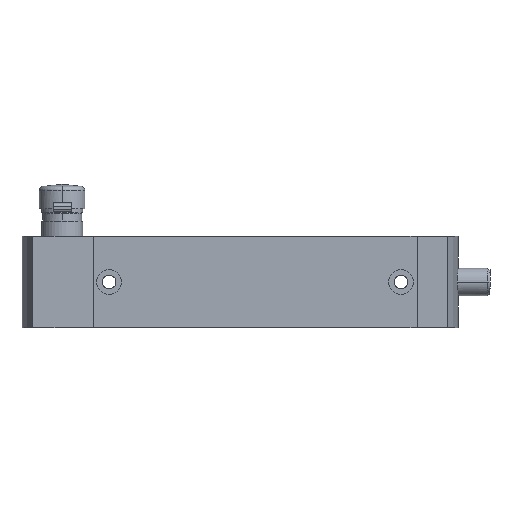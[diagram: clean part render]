
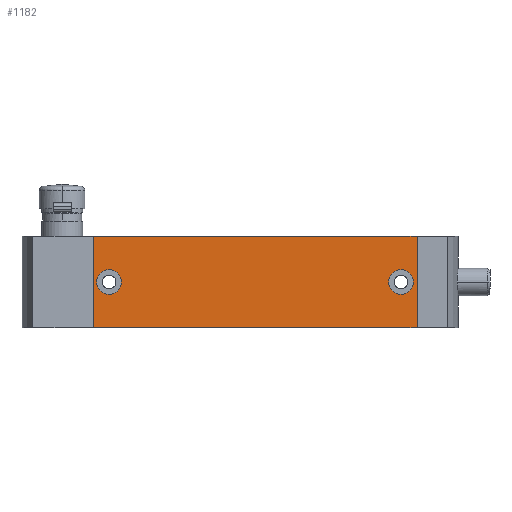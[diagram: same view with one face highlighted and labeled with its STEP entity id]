
A CAD part, left-side view. The second image highlights one B-rep face of the part: STEP entity #1182.
In plain terms, the highlighted planar face has unit normal (-1, 0, 0) as drawn and (0, 0, -1) by its records, which use the part's own axes.
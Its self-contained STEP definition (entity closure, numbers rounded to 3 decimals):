
#74 = DIRECTION ( 'NONE',  ( 1., 0., 0. ) ) ;
#384 = DIRECTION ( 'NONE',  ( 0., -1., 0. ) ) ;
#391 = DIRECTION ( 'NONE',  ( -1., 0., 0. ) ) ;
#453 = DIRECTION ( 'NONE',  ( 0., 0., 1. ) ) ;
#631 = EDGE_CURVE ( 'NONE', #7013, #7561, #3868, .T. ) ;
#712 = CIRCLE ( 'NONE', #3083, 5.4 ) ;
#755 = EDGE_CURVE ( 'NONE', #7513, #4048, #7096, .T. ) ;
#756 = CARTESIAN_POINT ( 'NONE',  ( -58.6, 0., -20. ) ) ;
#785 = VERTEX_POINT ( 'NONE', #7874 ) ;
#902 = ORIENTED_EDGE ( 'NONE', *, *, #5442, .T. ) ;
#951 = ORIENTED_EDGE ( 'NONE', *, *, #4007, .T. ) ;
#1136 = EDGE_CURVE ( 'NONE', #785, #5562, #3625, .T. ) ;
#1182 = ADVANCED_FACE ( 'NONE', ( #8600, #6625, #4888 ), #4146, .F. ) ;
#1194 = EDGE_CURVE ( 'NONE', #7561, #7013, #712, .T. ) ;
#1276 = CARTESIAN_POINT ( 'NONE',  ( -71., 20., -20. ) ) ;
#1866 = CARTESIAN_POINT ( 'NONE',  ( 71., 20., -20. ) ) ;
#1967 = DIRECTION ( 'NONE',  ( -1., 0., 0. ) ) ;
#2345 = EDGE_CURVE ( 'NONE', #5562, #4048, #9440, .T. ) ;
#2415 = CARTESIAN_POINT ( 'NONE',  ( -71., -20., -20. ) ) ;
#2650 = VECTOR ( 'NONE', #1967, 1000. ) ;
#2884 = LINE ( 'NONE', #3447, #2650 ) ;
#2923 = VECTOR ( 'NONE', #3389, 1000. ) ;
#3058 = EDGE_LOOP ( 'NONE', ( #4463, #3667, #8625, #9438 ) ) ;
#3083 = AXIS2_PLACEMENT_3D ( 'NONE', #4176, #9366, #4925 ) ;
#3159 = VECTOR ( 'NONE', #384, 1000. ) ;
#3221 = VERTEX_POINT ( 'NONE', #7505 ) ;
#3389 = DIRECTION ( 'NONE',  ( 0., -1., 0. ) ) ;
#3392 = CARTESIAN_POINT ( 'NONE',  ( 64., 0., -20. ) ) ;
#3447 = CARTESIAN_POINT ( 'NONE',  ( -71., 20., -20. ) ) ;
#3455 = AXIS2_PLACEMENT_3D ( 'NONE', #9273, #4826, #391 ) ;
#3589 = AXIS2_PLACEMENT_3D ( 'NONE', #4891, #453, #5645 ) ;
#3625 = LINE ( 'NONE', #1866, #3159 ) ;
#3667 = ORIENTED_EDGE ( 'NONE', *, *, #755, .F. ) ;
#3756 = VERTEX_POINT ( 'NONE', #8079 ) ;
#3868 = CIRCLE ( 'NONE', #3455, 5.4 ) ;
#3898 = ORIENTED_EDGE ( 'NONE', *, *, #1194, .F. ) ;
#3958 = EDGE_LOOP ( 'NONE', ( #3898, #6583 ) ) ;
#4007 = EDGE_CURVE ( 'NONE', #3221, #3756, #9412, .T. ) ;
#4048 = VERTEX_POINT ( 'NONE', #4910 ) ;
#4136 = DIRECTION ( 'NONE',  ( 1., 0., 0. ) ) ;
#4146 = PLANE ( 'NONE',  #3589 ) ;
#4176 = CARTESIAN_POINT ( 'NONE',  ( -64., 0., -20. ) ) ;
#4463 = ORIENTED_EDGE ( 'NONE', *, *, #2345, .T. ) ;
#4503 = DIRECTION ( 'NONE',  ( 0., 0., 1. ) ) ;
#4599 = EDGE_LOOP ( 'NONE', ( #902, #951 ) ) ;
#4826 = DIRECTION ( 'NONE',  ( 0., 0., -1. ) ) ;
#4838 = CARTESIAN_POINT ( 'NONE',  ( -71., 20., -20. ) ) ;
#4888 = FACE_BOUND ( 'NONE', #4599, .T. ) ;
#4891 = CARTESIAN_POINT ( 'NONE',  ( -71., 20., -20. ) ) ;
#4910 = CARTESIAN_POINT ( 'NONE',  ( -71., -20., -20. ) ) ;
#4925 = DIRECTION ( 'NONE',  ( -1., 0., 0. ) ) ;
#4964 = AXIS2_PLACEMENT_3D ( 'NONE', #8935, #4503, #74 ) ;
#5401 = DIRECTION ( 'NONE',  ( -1., 0., 0. ) ) ;
#5442 = EDGE_CURVE ( 'NONE', #3756, #3221, #9046, .T. ) ;
#5505 = VECTOR ( 'NONE', #5401, 1000. ) ;
#5562 = VERTEX_POINT ( 'NONE', #6260 ) ;
#5645 = DIRECTION ( 'NONE',  ( 1., 0., 0. ) ) ;
#6260 = CARTESIAN_POINT ( 'NONE',  ( 71., -20., -20. ) ) ;
#6517 = CARTESIAN_POINT ( 'NONE',  ( -69.4, 0., -20. ) ) ;
#6583 = ORIENTED_EDGE ( 'NONE', *, *, #631, .F. ) ;
#6625 = FACE_OUTER_BOUND ( 'NONE', #3058, .T. ) ;
#7013 = VERTEX_POINT ( 'NONE', #756 ) ;
#7096 = LINE ( 'NONE', #4838, #2923 ) ;
#7505 = CARTESIAN_POINT ( 'NONE',  ( 69.4, 0., -20. ) ) ;
#7513 = VERTEX_POINT ( 'NONE', #1276 ) ;
#7561 = VERTEX_POINT ( 'NONE', #6517 ) ;
#7874 = CARTESIAN_POINT ( 'NONE',  ( 71., 20., -20. ) ) ;
#8059 = EDGE_CURVE ( 'NONE', #785, #7513, #2884, .T. ) ;
#8079 = CARTESIAN_POINT ( 'NONE',  ( 58.6, 0., -20. ) ) ;
#8579 = DIRECTION ( 'NONE',  ( 0., 0., 1. ) ) ;
#8600 = FACE_BOUND ( 'NONE', #3958, .T. ) ;
#8625 = ORIENTED_EDGE ( 'NONE', *, *, #8059, .F. ) ;
#8935 = CARTESIAN_POINT ( 'NONE',  ( 64., 0., -20. ) ) ;
#9046 = CIRCLE ( 'NONE', #4964, 5.4 ) ;
#9056 = AXIS2_PLACEMENT_3D ( 'NONE', #3392, #8579, #4136 ) ;
#9273 = CARTESIAN_POINT ( 'NONE',  ( -64., 0., -20. ) ) ;
#9366 = DIRECTION ( 'NONE',  ( 0., 0., -1. ) ) ;
#9412 = CIRCLE ( 'NONE', #9056, 5.4 ) ;
#9438 = ORIENTED_EDGE ( 'NONE', *, *, #1136, .T. ) ;
#9440 = LINE ( 'NONE', #2415, #5505 ) ;
